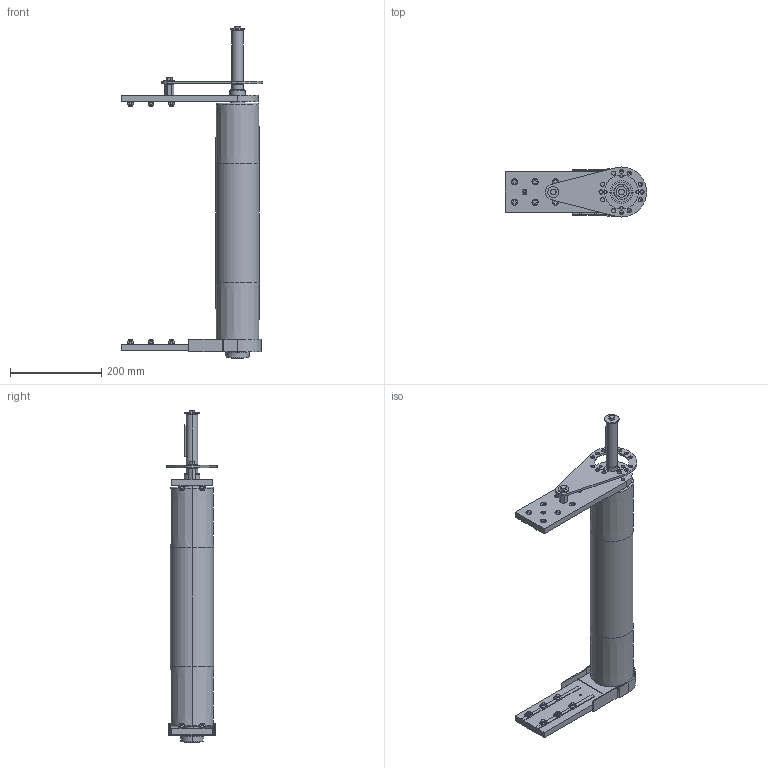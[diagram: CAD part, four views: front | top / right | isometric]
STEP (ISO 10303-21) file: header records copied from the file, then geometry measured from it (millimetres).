
FILE_DESCRIPTION (( 'STEP AP203' ), '1' );
FILE_NAME ('084.095.KD.63.500.STEP', '2019-07-30T07:06:53', ( '' ), ( '' ), 'SwSTEP 2.0', 'SolidWorks 2018', '' );
FILE_SCHEMA (( 'CONFIG_CONTROL_DESIGN' ));
Length unit declared in the file: millimetre
Products named in the file (22): RONDELLE FASCIA LARGA UNI 6593_8.4x32 UNI 6593; 084.816.108_084.816.108; 084.802.027; RONDELLE FASCIA LARGA UNI 6593_8.4x24 UNI 6593; 084.808.002_084.808.002; 084.802.034_084.802.034; CHIAVETTE_A 8x7x25 UNI 6604-69; 084.808.005-1; 084.301.000 VITI ALUSIC_084.301.003; 25 UNI 7435_PreviewCfg; 084.095.KD.63.500; 084.302.000 DADI ALUSIC 13x13_084.302.004; 084.812.003; 084.802.019_084.802.019; CHIAVETTE_A 8x7x70 UNI 6604-69; 084.803.005-1; 084.808.003_084.808.003; VITI TE UNI 5739_M8x16 UNI 5739; 084.810.003; 084.812.004; VITI TSEI UNI 5933_M4x12 UNI 5933; GRANI A PUNTA PIATTA UNI 5923_M8x25 UNI 5923
Assembly tree (46 placements, depth 2):
  084.095.KD.63.500
    084.803.005-1
    084.808.005-1
    084.802.027
    084.812.004
    084.802.034_084.802.034
    084.816.108_084.816.108
    084.812.003
    084.808.003_084.808.003
    084.808.002_084.808.002
    084.810.003  x2
    084.802.019_084.802.019
    CHIAVETTE_A 8x7x25 UNI 6604-69
    CHIAVETTE_A 8x7x70 UNI 6604-69
    25 UNI 7435_PreviewCfg
    VITI TSEI UNI 5933_M4x12 UNI 5933  x2
    RONDELLE FASCIA LARGA UNI 6593_8.4x32 UNI 6593
    VITI TE UNI 5739_M8x16 UNI 5739  x2
    RONDELLE FASCIA LARGA UNI 6593_8.4x24 UNI 6593
    084.301.000 VITI ALUSIC_084.301.003  x12
    084.302.000 DADI ALUSIC 13x13_084.302.004  x12
    GRANI A PUNTA PIATTA UNI 5923_M8x25 UNI 5923
Bounding box: 310 x 110 x 729.33 mm (x, y, z)
Volume: 2033760.3 mm3; surface area: 857360.2 mm2
Topology: 51 solids, 52 shells, 1333 faces, 3372 edges, 2193 vertices
Faces by surface type: plane 705, cylinder 365, cone 110, torus 96, bspline 48, sphere 9
Entity records: 31999 total; most frequent: CARTESIAN_POINT 6061, DIRECTION 4833, ORIENTED_EDGE 4724, EDGE_CURVE 2362, AXIS2_PLACEMENT_3D 1722, VERTEX_POINT 1544, VECTOR 1389, LINE 1389
